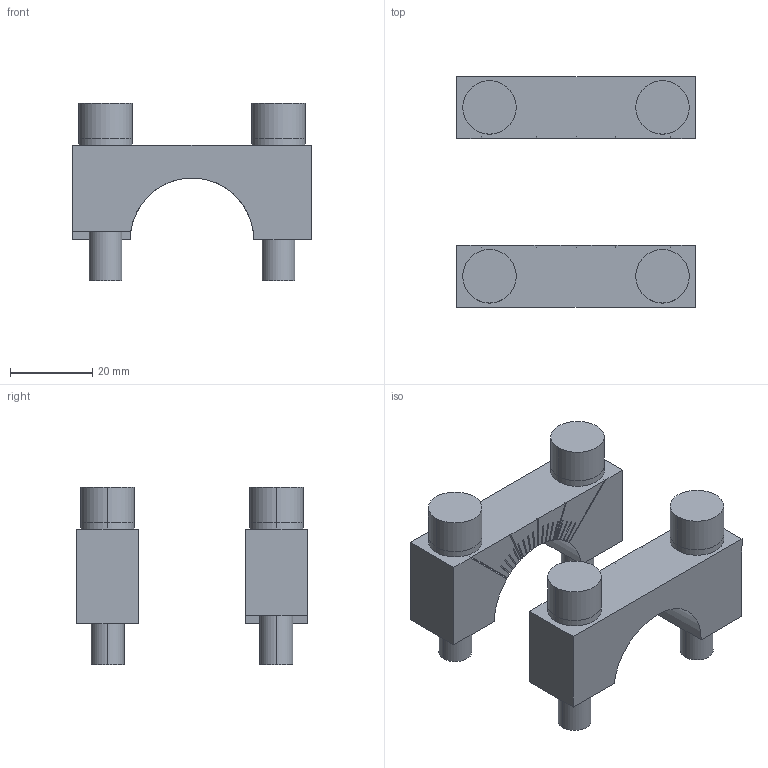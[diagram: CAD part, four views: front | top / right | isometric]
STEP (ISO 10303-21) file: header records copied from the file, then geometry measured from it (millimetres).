
FILE_DESCRIPTION(('STEP AP214'),'1');
FILE_NAME('EGT205_1705143_2X_SCHELLE_RD30.CATPart.stp','2015-09-14T13:13:04',('3D-Tool'),(' '),'Spatial InterOp 3D',' ',' ');
FILE_SCHEMA(('automotive_design'));
Length unit declared in the file: millimetre
Products named in the file (10): EGT205_1705143_2X_SCHELLE_RD30|EGT205_2X_SCHELLE_RD30|Bohrbearbeitung; EGT205_1705143_2X_SCHELLE_RD30|EGT205_SCHELLE_RD30_SIM.2|Rotate.1; 1; 2; 3; 4; 5; 6; 7; 8
Bounding box: 58 x 56 x 43 mm (x, y, z)
Volume: 35738.5 mm3; surface area: 18048.1 mm2
Topology: 10 solids, 10 shells, 210 faces, 558 edges, 372 vertices
Faces by surface type: plane 160, cylinder 50
Entity records: 8721 total; most frequent: CARTESIAN_POINT 1570, ORIENTED_EDGE 1116, DIRECTION 1056, EDGE_CURVE 558, VERTEX_POINT 372, AXIS2_PLACEMENT_3D 362, LINE 332, VECTOR 332
